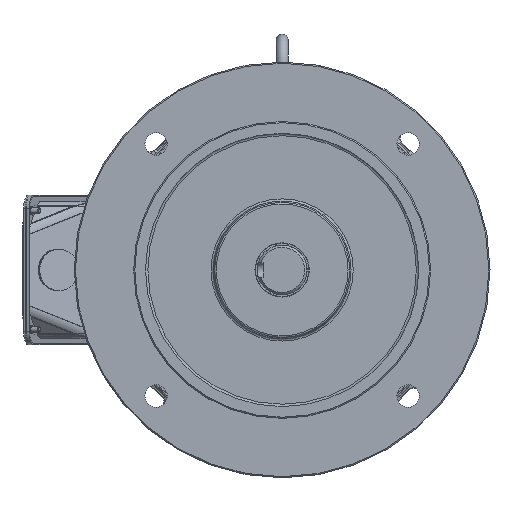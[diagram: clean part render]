
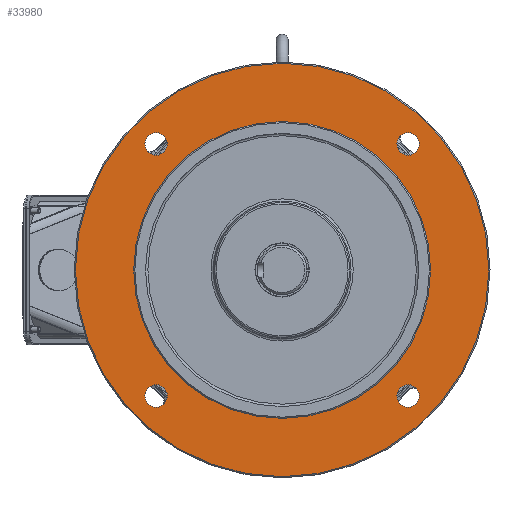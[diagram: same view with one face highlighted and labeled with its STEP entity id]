
A CAD part, front view. The second image highlights one B-rep face of the part: STEP entity #33980.
In plain terms, the highlighted planar face has unit normal (0, -1, 0).
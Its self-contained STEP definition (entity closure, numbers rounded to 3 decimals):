
#2913=CIRCLE('',#36323,9.5);
#2915=CIRCLE('',#36326,9.5);
#2918=CIRCLE('',#36330,125.);
#2925=CIRCLE('',#36340,174.);
#2926=CIRCLE('',#36341,9.5);
#2927=CIRCLE('',#36342,9.5);
#6358=ORIENTED_EDGE('',*,*,#14398,.T.);
#6359=ORIENTED_EDGE('',*,*,#14399,.F.);
#6360=ORIENTED_EDGE('',*,*,#14391,.F.);
#6361=ORIENTED_EDGE('',*,*,#14388,.F.);
#6362=ORIENTED_EDGE('',*,*,#14386,.F.);
#6363=ORIENTED_EDGE('',*,*,#14400,.F.);
#14386=EDGE_CURVE('',#18598,#18598,#2913,.T.);
#14388=EDGE_CURVE('',#18600,#18600,#2915,.T.);
#14391=EDGE_CURVE('',#18603,#18603,#2918,.T.);
#14398=EDGE_CURVE('',#18610,#18610,#2925,.T.);
#14399=EDGE_CURVE('',#18611,#18611,#2926,.T.);
#14400=EDGE_CURVE('',#18612,#18612,#2927,.T.);
#18598=VERTEX_POINT('',#55005);
#18600=VERTEX_POINT('',#55010);
#18603=VERTEX_POINT('',#55017);
#18610=VERTEX_POINT('',#55034);
#18611=VERTEX_POINT('',#55036);
#18612=VERTEX_POINT('',#55038);
#24661=EDGE_LOOP('',(#6358));
#24662=EDGE_LOOP('',(#6359));
#24663=EDGE_LOOP('',(#6360));
#24664=EDGE_LOOP('',(#6361));
#24665=EDGE_LOOP('',(#6362));
#24666=EDGE_LOOP('',(#6363));
#26972=FACE_BOUND('',#24661,.T.);
#26973=FACE_BOUND('',#24662,.T.);
#26974=FACE_BOUND('',#24663,.T.);
#26975=FACE_BOUND('',#24664,.T.);
#26976=FACE_BOUND('',#24665,.T.);
#26977=FACE_BOUND('',#24666,.T.);
#28922=PLANE('',#36339);
#33980=ADVANCED_FACE('',(#26972,#26973,#26974,#26975,#26976,#26977),#28922,
 .T.);
#36323=AXIS2_PLACEMENT_3D('',#55004,#41093,#41094);
#36326=AXIS2_PLACEMENT_3D('',#55009,#41099,#41100);
#36330=AXIS2_PLACEMENT_3D('',#55016,#41107,#41108);
#36339=AXIS2_PLACEMENT_3D('',#55032,#41125,#41126);
#36340=AXIS2_PLACEMENT_3D('',#55033,#41127,#41128);
#36341=AXIS2_PLACEMENT_3D('',#55035,#41129,#41130);
#36342=AXIS2_PLACEMENT_3D('',#55037,#41131,#41132);
#41093=DIRECTION('',(0.,-1.,0.));
#41094=DIRECTION('',(-1.,0.,0.));
#41099=DIRECTION('',(0.,-1.,0.));
#41100=DIRECTION('',(0.,0.,1.));
#41107=DIRECTION('',(0.,-1.,0.));
#41108=DIRECTION('',(1.,0.,0.));
#41125=DIRECTION('',(0.,-1.,0.));
#41126=DIRECTION('',(1.,0.,0.));
#41127=DIRECTION('',(0.,-1.,0.));
#41128=DIRECTION('',(1.,0.,0.));
#41129=DIRECTION('',(0.,-1.,0.));
#41130=DIRECTION('',(0.,0.,-1.));
#41131=DIRECTION('',(0.,-1.,0.));
#41132=DIRECTION('',(1.,0.,0.));
#55004=CARTESIAN_POINT('',(106.066,5.,-106.066));
#55005=CARTESIAN_POINT('',(96.566,5.,-106.066));
#55009=CARTESIAN_POINT('',(-106.066,5.,-106.066));
#55010=CARTESIAN_POINT('',(-106.066,5.,-96.566));
#55016=CARTESIAN_POINT('',(0.,5.,0.));
#55017=CARTESIAN_POINT('',(125.,5.,0.));
#55032=CARTESIAN_POINT('',(0.,5.,125.));
#55033=CARTESIAN_POINT('',(0.,5.,0.));
#55034=CARTESIAN_POINT('',(174.,5.,0.));
#55035=CARTESIAN_POINT('',(106.066,5.,106.066));
#55036=CARTESIAN_POINT('',(106.066,5.,96.566));
#55037=CARTESIAN_POINT('',(-106.066,5.,106.066));
#55038=CARTESIAN_POINT('',(-96.566,5.,106.066));
